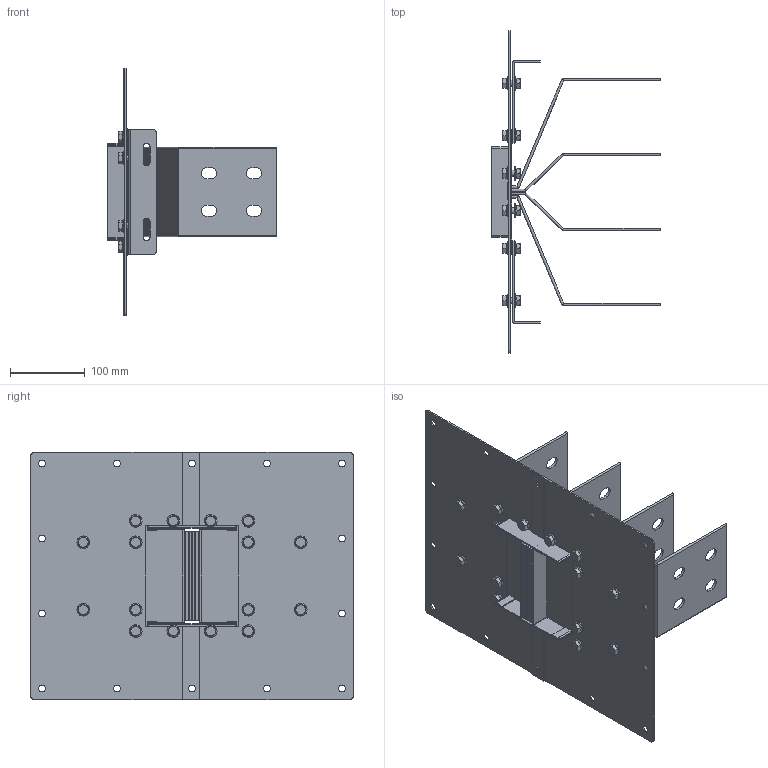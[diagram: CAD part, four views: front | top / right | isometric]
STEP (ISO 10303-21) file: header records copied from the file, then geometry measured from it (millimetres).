
FILE_DESCRIPTION(('CATIA V5 STEP','CAx-IF Rec.Pracs.--- Model Styling and Organization---1.5--- 2016-08-15','CAx-IF Rec.Pracs.---Supplemental Geometry---1.0---2011-11-01','CAx-IF Rec.Pracs.--- Composite Materials ---1.1---2010-07-15'),'2;1');
FILE_NAME('K:\COSCN 2011\32372311_RiduzioneSezioniBarre\03_Studio\__Modelli semplificati\XCP_UB semplificati per studi\XCP-S_UB_4C_Pe_STD_Assieme\Al\XCP-S_UB_4C_Pe_S_Assieme - 1000A Al\XCP-S_UB_4C_Pe_S_Assieme - 1000A Al.stp','2025-05-12T12:26:22+00:00',('Utente Bticino'),('Bticino S.p.A.'),'CATIA Version 5-6 Release 2020 SP5','CATIA V5 STEP AP214 v2','none');
FILE_SCHEMA(('AUTOMOTIVE_DESIGN { 1 0 10303 214 1 1 1 1 }'));
Length unit declared in the file: millimetre
Products named in the file (7): XCP-S_UB_4C_Pe_S_Assieme - 1000A Al; XCP-S_UB_4C_Pe_S_PaccoBarre_1000A Al; XCP-S_UB_4C_Pe_S_Lamiere_1000A Al; Viteria UB H130; Ass Vite+dado M8; Steel hex flanged SCREW M12x16; Steel hex flanged NUT M8
Assembly tree (21 placements, depth 4):
  XCP-S_UB_4C_Pe_S_Assieme - 1000A Al
    XCP-S_UB_4C_Pe_S_PaccoBarre_1000A Al
    XCP-S_UB_4C_Pe_S_Lamiere_1000A Al
    Viteria UB H130
      Ass Vite+dado M8  x16
        Steel hex flanged SCREW M12x16
        Steel hex flanged NUT M8
Bounding box: 225 x 430 x 330 mm (x, y, z)
Volume: 921231.1 mm3; surface area: 754710.5 mm2
Topology: 44 solids, 44 shells, 1148 faces, 2824 edges, 1796 vertices
Faces by surface type: plane 480, cylinder 380, cone 128, bspline 128, torus 32
Entity records: 14958 total; most frequent: CARTESIAN_POINT 3470, ORIENTED_EDGE 2468, DIRECTION 1936, EDGE_CURVE 1234, AXIS2_PLACEMENT_3D 820, VERTEX_POINT 806, VECTOR 732, LINE 732
